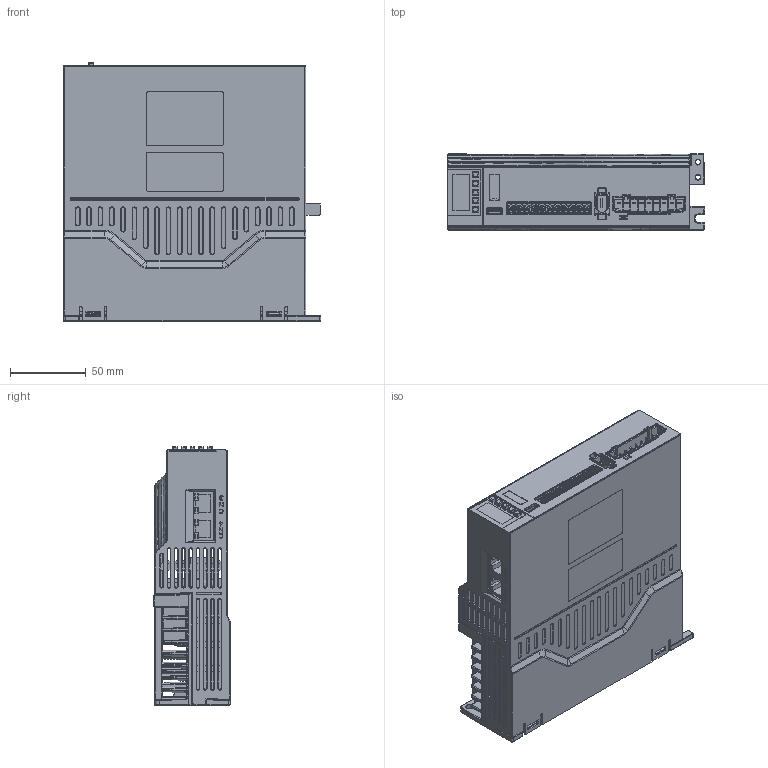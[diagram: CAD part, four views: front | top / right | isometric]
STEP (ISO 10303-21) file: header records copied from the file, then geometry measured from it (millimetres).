
FILE_DESCRIPTION((''),'2;1');
FILE_NAME('00-R9-M2-ASM_ASM','2024-12-31T',('samkoon'),(''),'PRO/ENGINEER BY PARAMETRIC TECHNOLOGY CORPORATION, 2015240','PRO/ENGINEER BY PARAMETRIC TECHNOLOGY CORPORATION, 2015240','');
FILE_SCHEMA(('AUTOMOTIVE_DESIGN { 1 2 10303 214 0 1 1 1 }'));
Products named in the file (18): M9-M2-DIZUO-20241226; PCB-R9-M2; JL15EDGRC-3_5-10P; JL15EDGRC-3_5-5P; TLCH-203-09P; USB-TEPY-C; WANGKOU-DOUBLE; PCB-UBS-1; SHUMAGUA-23; ANJIAN-45X45X3; ANJIAN-GUIJIAO; PCB-UBS_ASM; 1394-6P-F1; PCBA-R9-M2_ASM; PC-COVER; M9-M2-TOP-COVER-A; PC-COVER-01; 00-R9-M2-ASM_ASM
Assembly tree (21 placements, depth 4):
  00-R9-M2-ASM_ASM
    M9-M2-DIZUO-20241226
    PCBA-R9-M2_ASM
      PCB-R9-M2
      JL15EDGRC-3_5-10P
      JL15EDGRC-3_5-5P
      TLCH-203-09P
      USB-TEPY-C
      WANGKOU-DOUBLE
      PCB-UBS_ASM
        PCB-UBS-1
        SHUMAGUA-23
        ANJIAN-45X45X3  x5
        ANJIAN-GUIJIAO
      1394-6P-F1
    PC-COVER
    M9-M2-TOP-COVER-A
    PC-COVER-01
Bounding box: 170.25 x 50.49 x 170.93 mm (x, y, z)
Volume: 393440.4 mm3; surface area: 314906 mm2
Topology: 19 solids, 20 shells, 6564 faces, 17259 edges, 10669 vertices
Faces by surface type: plane 4130, cylinder 1567, bspline 382, cone 211, sphere 174, torus 98, extrusion 2
Entity records: 248848 total; most frequent: CARTESIAN_POINT 56131, ORIENTED_EDGE 34078, DIRECTION 30699, EDGE_CURVE 17039, VECTOR 12759, LINE 12757, VERTEX_POINT 10621, PRESENTATION_STYLE_ASSIGNMENT 10560
